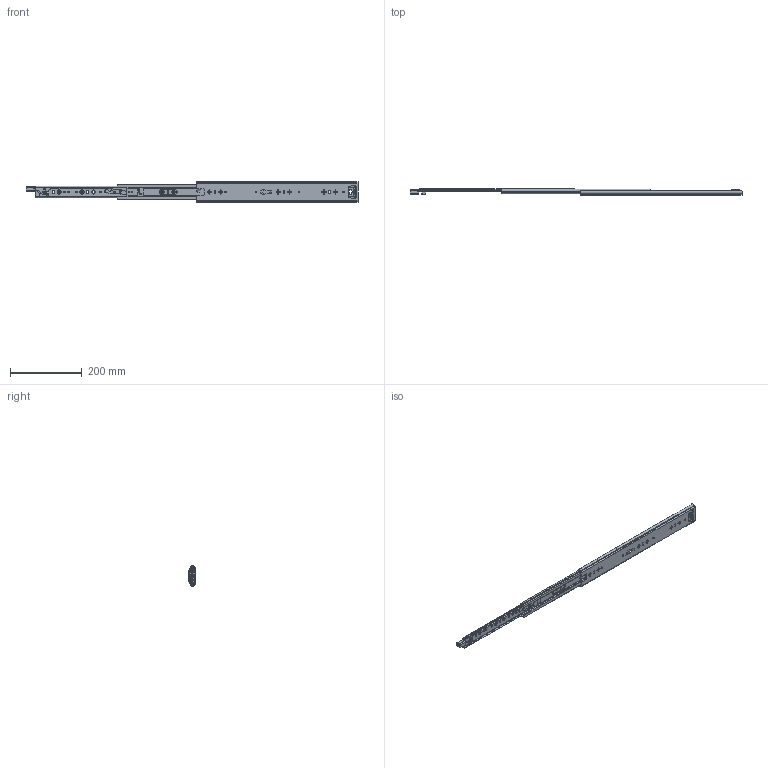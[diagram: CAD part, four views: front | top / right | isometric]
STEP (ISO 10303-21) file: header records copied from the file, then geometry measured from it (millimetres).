
FILE_DESCRIPTION((''),'2;1');
FILE_NAME('KP-57-01ZUZHUANGTU-18YOU_ASM','2023-04-03T',('jishu015'),(''),'PRO/ENGINEER BY PARAMETRIC TECHNOLOGY CORPORATION, 2010280','PRO/ENGINEER BY PARAMETRIC TECHNOLOGY CORPORATION, 2010280','');
FILE_SCHEMA(('CONFIG_CONTROL_DESIGN'));
Length unit declared in the file: millimetre
Products named in the file (21): KP-57-01WEIKE-20__; 1057WEIJIAO__________________; WAIKE_________________ASM; KP-57-01ZHONGGUI-26_____; ZHONGGUIPEIJIAN-20__; ZHONGGUISUOKOU-18_; KP-57-01ZHONGGUI-26______ASM; 1057XIAOZHUJIA111; 1057-5-6GANZHU111; 1057XIAOZHUJIA-14GE26______ASM; KP-57-01NEIGUI-22___; PJ-57-08________________; DIAOPIAN-11________________; 50XINSUOKOU-1________________; 1053-3SBANJI122______________; JIAO11______________; KP-57-01NEIGUI-22____ASM; 1053ZHUTIAO-275_____; 53-5-6GANZHU1__; 1053ZHUTIAO-175MM111__ASM; KP-57-01ZUZHUANGTU-18YOU_ASM
Assembly tree (54 placements, depth 3):
  KP-57-01ZUZHUANGTU-18YOU_ASM
    WAIKE_________________ASM
      KP-57-01WEIKE-20__
      1057WEIJIAO__________________
    KP-57-01ZHONGGUI-26______ASM
      KP-57-01ZHONGGUI-26_____
      ZHONGGUIPEIJIAN-20__
      ZHONGGUISUOKOU-18_
    1057XIAOZHUJIA-14GE26______ASM
      1057XIAOZHUJIA111
      1057-5-6GANZHU111  x28
    KP-57-01NEIGUI-22____ASM
      KP-57-01NEIGUI-22___
      PJ-57-08________________
      DIAOPIAN-11________________
      50XINSUOKOU-1________________
      1053-3SBANJI122______________
      JIAO11______________
    1053ZHUTIAO-175MM111__ASM  x2
      1053ZHUTIAO-275_____
      53-5-6GANZHU1__
Bounding box: 926.92 x 19.01 x 57.67 mm (x, y, z)
Volume: 195478.7 mm3; surface area: 211648 mm2
Topology: 57 solids, 57 shells, 1776 faces, 5089 edges, 3208 vertices
Faces by surface type: plane 766, cylinder 730, sphere 95, bspline 83, cone 60, extrusion 23, torus 19
Entity records: 59264 total; most frequent: CARTESIAN_POINT 15088, ORIENTED_EDGE 9366, DIRECTION 9038, EDGE_CURVE 4683, AXIS2_PLACEMENT_3D 3103, VERTEX_POINT 3028, VECTOR 2832, LINE 2809
